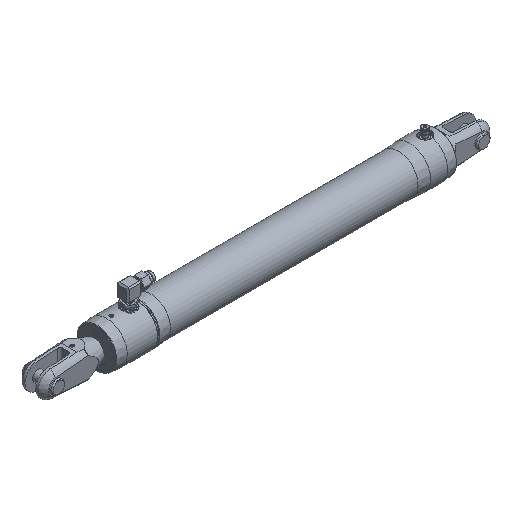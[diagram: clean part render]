
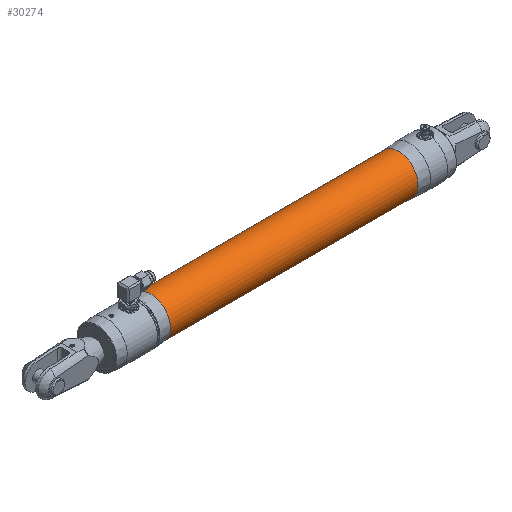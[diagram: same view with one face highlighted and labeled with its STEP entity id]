
A CAD part, isometric view. The second image highlights one B-rep face of the part: STEP entity #30274.
In plain terms, the highlighted cylindrical face has radius 29.2 mm (diameter 58.4 mm), a full revolution.
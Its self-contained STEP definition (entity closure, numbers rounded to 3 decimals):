
#367=FACE_BOUND('',#5465,.T.);
#2186=CYLINDRICAL_SURFACE('',#31479,29.2);
#3672=FACE_OUTER_BOUND('',#5464,.T.);
#5464=EDGE_LOOP('',(#25711));
#5465=EDGE_LOOP('',(#25712));
#11104=CIRCLE('',#31478,29.2);
#11105=CIRCLE('',#31480,29.2);
#13766=VERTEX_POINT('',#54890);
#13767=VERTEX_POINT('',#54893);
#17793=EDGE_CURVE('',#13766,#13766,#11104,.T.);
#17794=EDGE_CURVE('',#13767,#13767,#11105,.T.);
#25711=ORIENTED_EDGE('',*,*,#17794,.T.);
#25712=ORIENTED_EDGE('',*,*,#17793,.F.);
#30274=ADVANCED_FACE('',(#3672,#367),#2186,.T.);
#31478=AXIS2_PLACEMENT_3D('',#54891,#36311,#36312);
#31479=AXIS2_PLACEMENT_3D('',#54892,#36313,#36314);
#31480=AXIS2_PLACEMENT_3D('',#54894,#36315,#36316);
#36311=DIRECTION('center_axis',(1.,0.,0.));
#36312=DIRECTION('ref_axis',(0.,0.,-1.));
#36313=DIRECTION('center_axis',(1.,0.,0.));
#36314=DIRECTION('ref_axis',(0.,0.,
1.));
#36315=DIRECTION('center_axis',(1.,0.,0.));
#36316=DIRECTION('ref_axis',(0.,0.,-1.));
#54890=CARTESIAN_POINT('',(-38.402,0.,29.2));
#54891=CARTESIAN_POINT('Origin',(-38.402,0.,
0.));
#54892=CARTESIAN_POINT('Origin',(-222.318,0.,
0.));
#54893=CARTESIAN_POINT('',(-406.234,0.,29.2));
#54894=CARTESIAN_POINT('Origin',(-406.234,0.,
0.));
